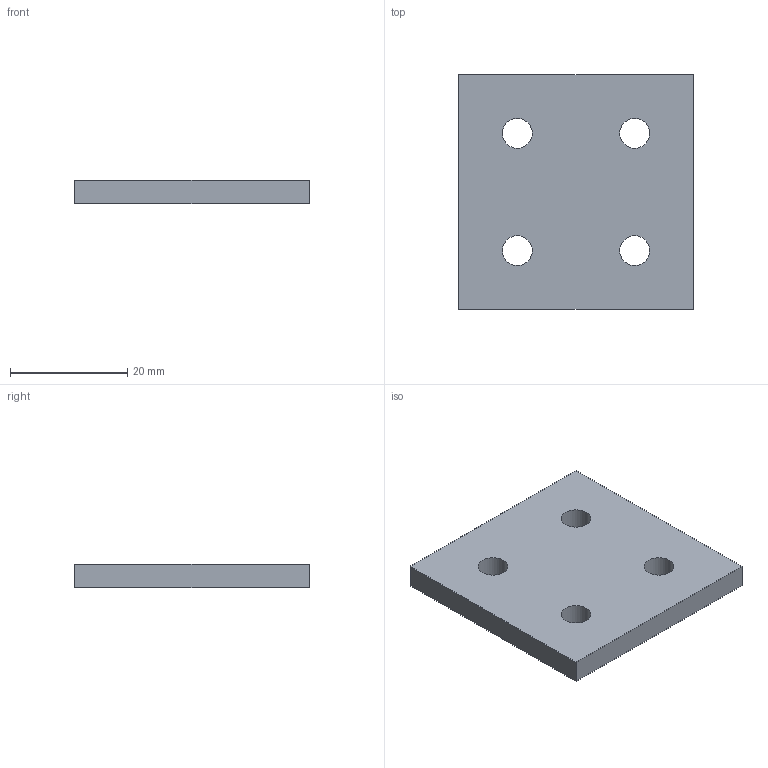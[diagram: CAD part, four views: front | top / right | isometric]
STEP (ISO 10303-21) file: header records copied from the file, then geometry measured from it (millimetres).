
FILE_DESCRIPTION(/* description */ (''),/* implementation_level */ '2;1');
FILE_NAME(/* name */ 'Plate Connector - 4 Hole - Double Slot - 20 Series - Aluminium - Black.step',/* time_stamp */ '2025-10-18T03:38:21+03:00',/* author */ (''),/* organization */ (''),/* preprocessor_version */ 'ST-DEVELOPER v20.1',/* originating_system */ 'Autodesk Translation Framework v14.17.0.0',/* authorisation */ '');
FILE_SCHEMA (('AUTOMOTIVE_DESIGN { 1 0 10303 214 3 1 1 }'));
Length unit declared in the file: millimetre
Products named in the file (1): 4-Hole-Double-Joining-Plate
Bounding box: 40 x 40 x 4 mm (x, y, z)
Volume: 6073.1 mm3; surface area: 3932.9 mm2
Topology: 1 solids, 1 shells, 10 faces, 24 edges, 16 vertices
Faces by surface type: plane 6, cylinder 4
Full cylindrical faces by diameter (mm): 5.1 x4
Entity records: 352 total; most frequent: DIRECTION 54, CARTESIAN_POINT 51, ORIENTED_EDGE 48, EDGE_CURVE 24, AXIS2_PLACEMENT_3D 19, EDGE_LOOP 18, LINE 16, VECTOR 16
